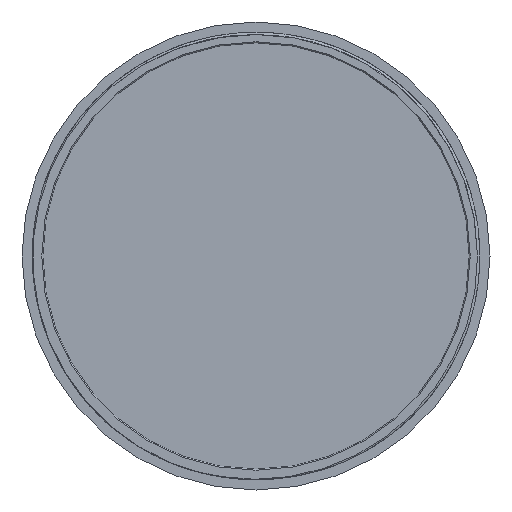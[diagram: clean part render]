
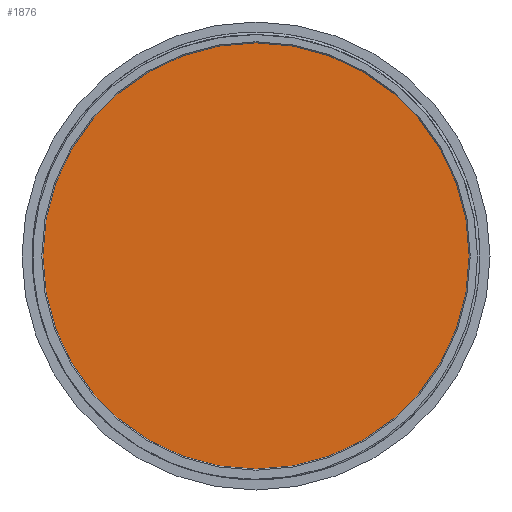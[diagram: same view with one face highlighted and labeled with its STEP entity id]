
A CAD part, front view. The second image highlights one B-rep face of the part: STEP entity #1876.
In plain terms, the highlighted planar face has unit normal (0, -1, 0).
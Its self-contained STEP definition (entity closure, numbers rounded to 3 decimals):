
#82 = CIRCLE ( 'NONE', #2569, 50.75 ) ;
#144 = DIRECTION ( 'NONE',  ( 0., 0., 1. ) ) ;
#461 = EDGE_CURVE ( 'NONE', #1749, #1090, #2560, .T. ) ;
#679 = CARTESIAN_POINT ( 'NONE',  ( 0., 3.5, 0. ) ) ;
#708 = DIRECTION ( 'NONE',  ( 0., 1., 0. ) ) ;
#866 = CARTESIAN_POINT ( 'NONE',  ( 0., 3.5, -50.75 ) ) ;
#902 = CARTESIAN_POINT ( 'NONE',  ( 0., 3.5, 0. ) ) ;
#958 = FACE_OUTER_BOUND ( 'NONE', #2451, .T. ) ;
#1090 = VERTEX_POINT ( 'NONE', #866 ) ;
#1254 = ORIENTED_EDGE ( 'NONE', *, *, #461, .F. ) ;
#1556 = PLANE ( 'NONE',  #2796 ) ;
#1638 = AXIS2_PLACEMENT_3D ( 'NONE', #679, #1792, #2896 ) ;
#1734 = DIRECTION ( 'NONE',  ( 0., 0., 1. ) ) ;
#1749 = VERTEX_POINT ( 'NONE', #2624 ) ;
#1792 = DIRECTION ( 'NONE',  ( 0., 1., 0. ) ) ;
#1876 = ADVANCED_FACE ( 'NONE', ( #958 ), #1556, .F. ) ;
#2451 = EDGE_LOOP ( 'NONE', ( #2693, #1254 ) ) ;
#2560 = CIRCLE ( 'NONE', #1638, 50.75 ) ;
#2569 = AXIS2_PLACEMENT_3D ( 'NONE', #902, #2806, #1734 ) ;
#2616 = CARTESIAN_POINT ( 'NONE',  ( 0., 3.5, 0. ) ) ;
#2624 = CARTESIAN_POINT ( 'NONE',  ( 0., 3.5, 50.75 ) ) ;
#2693 = ORIENTED_EDGE ( 'NONE', *, *, #3450, .F. ) ;
#2796 = AXIS2_PLACEMENT_3D ( 'NONE', #2616, #708, #144 ) ;
#2806 = DIRECTION ( 'NONE',  ( 0., 1., 0. ) ) ;
#2896 = DIRECTION ( 'NONE',  ( 0., 0., 1. ) ) ;
#3450 = EDGE_CURVE ( 'NONE', #1090, #1749, #82, .T. ) ;
